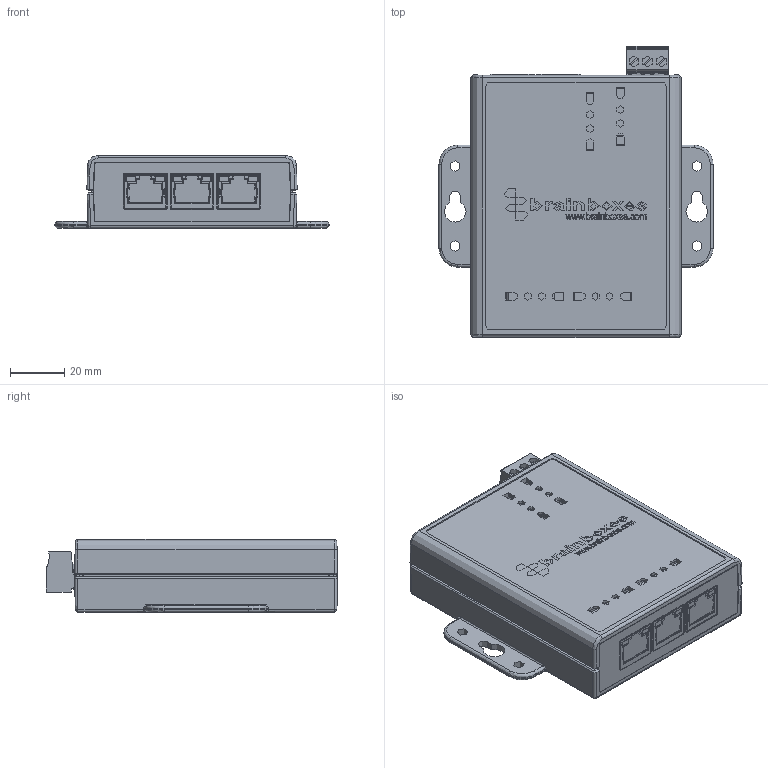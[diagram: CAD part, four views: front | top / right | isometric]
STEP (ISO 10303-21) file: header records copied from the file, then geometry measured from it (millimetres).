
FILE_DESCRIPTION(('STEP AP214'),'1');
FILE_NAME('SW-005 Cased PCB 3D Step.step','2020-12-21T10:19:55',(' '),(' '),'Spatial InterOp 3D','XD3DPlugin XRACreate',' ');
FILE_SCHEMA(('automotive_design'));
Length unit declared in the file: millimetre
Products named in the file (31): Submodel-\SW-005 Cased PCB 3D Step_PCB\3D\Input_S\00MAGJACKILED.xtd; 00MAGJACKILED; Submodel-00MAGJACKILED_part_simplified_MAGJACK_LEDS; DesignRootModel; Submodel-\SW-005 Cased PCB 3D Step_PCB\3D\Input_S\SMD_ELEC_D.xtd; SMD_ELEC_D; Submodel-7547UF50V_part_simplified_SMD_ELEC_D; Submodel-\SW-005 Cased PCB 3D Step_PCB\3D\Input_S\82HEA5MMTBX3.xtd; 82HEA5MMTBX3; Submodel-82HEA5MMTBX3_part_simplified_TB_5MM_3; Submodel-\SW-005 Cased PCB 3D Step_PCB\3D\Input_S\SMC.xtd; SMC; Submodel-55TZ1K5SMC36V_part_simplified_SMC; uid__9223372036854779310; Submodel-AssyDefn_13; BrainboxesLogo.step; Submodel-AssyDefn_12; CamdenEndPanel.sat; Submodel-AssyDefn_11; 82PLUG5MMTBX3.sat; Submodel-AssyDefn_10; 00ESUSCASELID.sat; Submodel-AssyDefn_9; 00ESUSCASEBASE.sat; Submodel-noModelForPart_DATUM_2441444698; placementOutline; Submodel-DATUM_2441444698_part_DATUM; Submodel-noModelForPart_MOUNTINGHOLE_2132796670; Submodel-MOUNTINGHOLE_2132796670_part_MOUNTINGHOLE; SW-005 Cased PCB 3D Step
Assembly tree (39 placements, depth 5):
  SW-005 Cased PCB 3D Step
    DesignRootModel
      Submodel-00MAGJACKILED_part_simplified_MAGJACK_LEDS  x5
        Submodel-\SW-005 Cased PCB 3D Step_PCB\3D\Input_S\00MAGJACKILED.xtd
          00MAGJACKILED
      Submodel-7547UF50V_part_simplified_SMD_ELEC_D
        Submodel-\SW-005 Cased PCB 3D Step_PCB\3D\Input_S\SMD_ELEC_D.xtd
          SMD_ELEC_D
      Submodel-82HEA5MMTBX3_part_simplified_TB_5MM_3
        Submodel-\SW-005 Cased PCB 3D Step_PCB\3D\Input_S\82HEA5MMTBX3.xtd
          82HEA5MMTBX3
      Submodel-55TZ1K5SMC36V_part_simplified_SMC  x3
        Submodel-\SW-005 Cased PCB 3D Step_PCB\3D\Input_S\SMC.xtd
          SMC
      uid__9223372036854779310
      Submodel-AssyDefn_13  x2
        BrainboxesLogo.step
      Submodel-AssyDefn_12  x2
        CamdenEndPanel.sat
      Submodel-AssyDefn_11
        82PLUG5MMTBX3.sat
      Submodel-AssyDefn_10
        00ESUSCASELID.sat
      Submodel-AssyDefn_9
        00ESUSCASEBASE.sat
      Submodel-DATUM_2441444698_part_DATUM
        Submodel-noModelForPart_DATUM_2441444698
          placementOutline
      Submodel-MOUNTINGHOLE_2132796670_part_MOUNTINGHOLE  x2
        Submodel-noModelForPart_MOUNTINGHOLE_2132796670
          placementOutline
Bounding box: 101 x 107.23 x 27.1 mm (x, y, z)
Volume: 75177.3 mm3; surface area: 112625 mm2
Topology: 201 solids, 201 shells, 14369 faces, 38944 edges, 24880 vertices
Faces by surface type: plane 11315, cylinder 2276, bspline 636, torus 64, cone 42, sphere 36
Full cylindrical faces by diameter (mm): 3.81 x1
Entity records: 169449 total; most frequent: CARTESIAN_POINT 30380, ORIENTED_EDGE 22366, DIRECTION 20385, EDGE_CURVE 11183, LINE 8987, VECTOR 8987, VERTEX_POINT 7160, AXIS2_PLACEMENT_3D 5699
